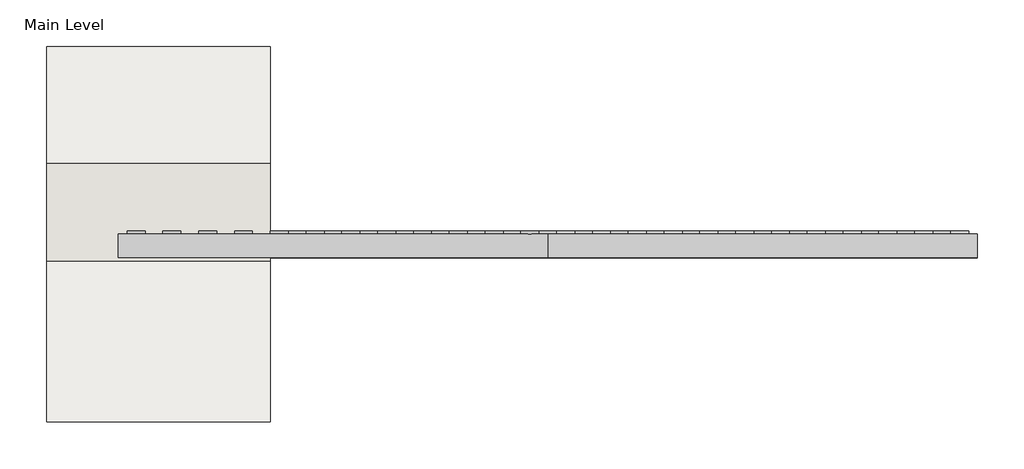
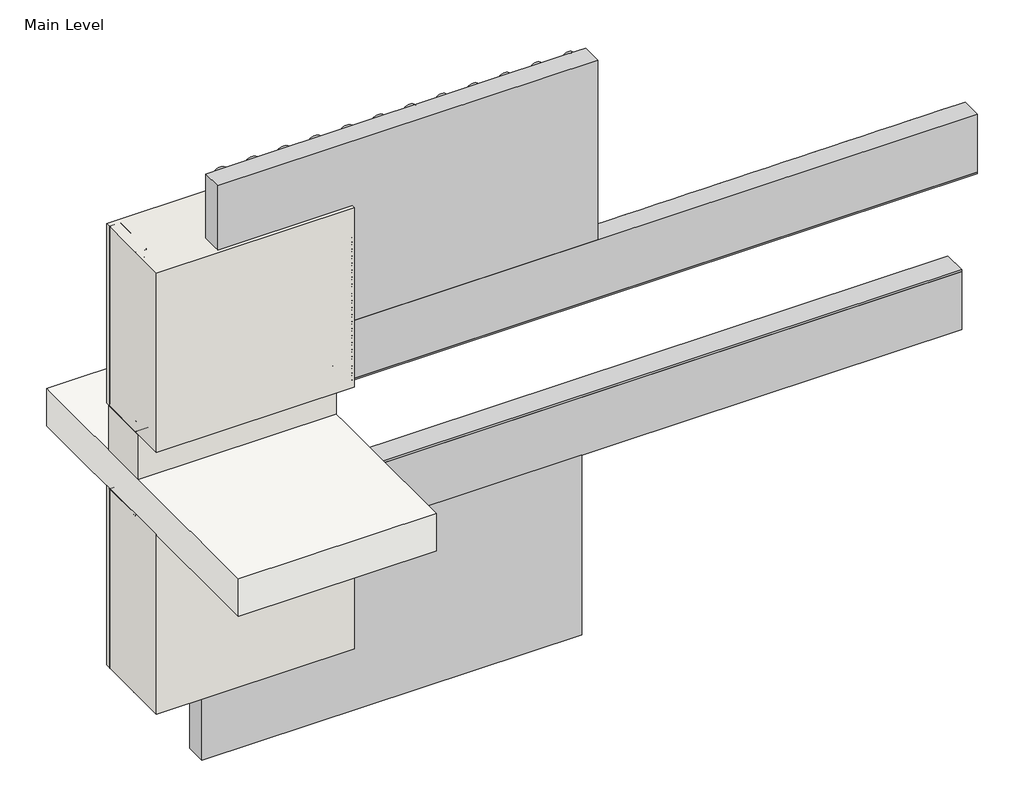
# One storey, incomplete: 32 proxies, 3 walls, 1 slab.
"""IFC4 building model written with IfcOpenShell, lengths in millimetres."""

from ifc_helpers import new_model, si_unit, frame, origin, origin_with_axes, place, context, project, spatial, polyline, outline, extrude, transform, mapped, element, save
from components import generic_models_31547c53, generic_models_0bbfdc8f, generic_models_1e1ad44f, generic_models_7dd17a53, generic_models_441de798, generic_models_9d0e7a2a, generic_models_a6b5edb7, generic_models_b4f71f2a, generic_models_03ec6e0e, proxy_4c3b85e5, proxy_50213ae0, proxy_cc65e3d2, masonry_sill1_masonry_sill_09de60a1, wood_blocking_45ac4bf3

model = new_model("IFC4")

# Units and contexts
model_context = context("Model", 3, world=origin())
ifc_project = project(units=[si_unit("LENGTHUNIT", "METRE", prefix="MILLI")], contexts=[model_context])

# Site, building, storey
site = spatial("IfcSite", under=ifc_project)
building = spatial("IfcBuilding", under=site)
storey = spatial("IfcBuildingStorey", under=building, Name="Main Level", Elevation=0.0)

# Proxies
placement = place(None, origin())
generic_models_shape = generic_models_31547c53(model_context)
element("IfcBuildingElementProxy", 1, Name="Durabond Generic Model Sealant Vent : Durabond Generic Model Sealant Vent", ObjectType="Durabond Generic Model Sealant Vent : Durabond Generic Model Sealant Vent", at=placement, inside=storey, context=model_context, shape_type="MappedRepresentation", body=[
    mapped(generic_models_shape, transform((26865.4101773, 546.8432813, 8.5594788), x_axis=(1.0, 0.0, 0.0), y_axis=(0.0, 0.08715574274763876, -0.9961946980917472), z_axis=(0.0, 0.9961946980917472, 0.08715574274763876))),
])
generic_models_2_shape = generic_models_0bbfdc8f(model_context)
generic_models_3_shape = generic_models_1e1ad44f(model_context)
generic_models_4_shape = generic_models_7dd17a53(model_context)
generic_models_5_shape = generic_models_441de798(model_context)
element("IfcBuildingElementProxy", 2, Name="CRAi Generic Model Mesh Piece Face Based : CRAi Generic Model Mesh Piece Face Based", ObjectType="CRAi Generic Model Mesh Piece Face Based : CRAi Generic Model Mesh Piece Face Based", at=placement, inside=storey, context=model_context, shape_type="MappedRepresentation", body=[
    mapped(generic_models_2_shape, transform((26933.6726773, 541.9066297, 261.6963215), x_axis=(-1.0, 0.0, 0.0), y_axis=(0.0, 0.0, -1.0), z_axis=(0.0, -1.0, 0.0))),
    mapped(generic_models_3_shape, transform((26933.6726773, 541.9066297, 261.6963215), x_axis=(-1.0, 0.0, 0.0), y_axis=(0.0, 0.0, -1.0), z_axis=(0.0, -1.0, 0.0))),
    mapped(generic_models_4_shape, transform((26933.6726773, 541.9066297, 261.6963215), x_axis=(-1.0, 0.0, 0.0), y_axis=(0.0, 0.0, -1.0), z_axis=(0.0, -1.0, 0.0))),
    mapped(generic_models_5_shape, transform((26933.6726773, 541.9066297, 261.6963215), x_axis=(-1.0, 0.0, 0.0), y_axis=(0.0, 0.0, -1.0), z_axis=(0.0, -1.0, 0.0))),
])
generic_models_6_shape = generic_models_9d0e7a2a(model_context)
element("IfcBuildingElementProxy", 3, Name="CRAi Generic Model Metal Stud Array : CRAi Generic Model Metal Stud Array", ObjectType="CRAi Generic Model Metal Stud Array : CRAi Generic Model Metal Stud Array", at=placement, inside=storey, context=model_context, shape_type="MappedRepresentation", body=[
    mapped(generic_models_6_shape, transform((26666.9726773, 726.0566297, 6.35), x_axis=(-1.0, 0.0, 0.0), y_axis=(0.0, -1.0, 0.0), z_axis=(0.0, 0.0, 1.0))),
])
element("IfcBuildingElementProxy", 4, Name="CRAi Generic Model Metal Stud Array : CRAi Generic Model Metal Stud Array", ObjectType="CRAi Generic Model Metal Stud Array : CRAi Generic Model Metal Stud Array", at=placement, inside=storey, context=model_context, shape_type="MappedRepresentation", body=[
    mapped(generic_models_6_shape, transform((26666.9726773, 726.0566297, -889.0), x_axis=(-1.0, 0.0, 0.0), y_axis=(0.0, -1.0, 0.0), z_axis=(0.0, 0.0, 1.0))),
])
generic_models_7_shape = generic_models_a6b5edb7(model_context)
element("IfcBuildingElementProxy", 5, Name="Durabond Generic Model Insulation Adhesive Flat : Durabond Generic Model Insulation Adhesive Flat", ObjectType="Durabond Generic Model Insulation Adhesive Flat : Durabond Generic Model Insulation Adhesive Flat", at=placement, inside=storey, context=model_context, shape_type="MappedRepresentation", body=[
    mapped(generic_models_7_shape, transform((26717.7726773, 627.6316297, 88.9), x_axis=(1.0, 0.0, 0.0), y_axis=(0.0, 1.0, 0.0), z_axis=(0.0, 0.0, 1.0))),
])
element("IfcBuildingElementProxy", 6, Name="Durabond Generic Model Insulation Adhesive Flat : Durabond Generic Model Insulation Adhesive Flat", ObjectType="Durabond Generic Model Insulation Adhesive Flat : Durabond Generic Model Insulation Adhesive Flat", at=placement, inside=storey, context=model_context, shape_type="MappedRepresentation", body=[
    mapped(generic_models_7_shape, transform((26819.3726773, 627.6316297, 88.9), x_axis=(1.0, 0.0, 0.0), y_axis=(0.0, 1.0, 0.0), z_axis=(0.0, 0.0, 1.0))),
])
element("IfcBuildingElementProxy", 7, Name="Durabond Generic Model Insulation Adhesive Flat : Durabond Generic Model Insulation Adhesive Flat", ObjectType="Durabond Generic Model Insulation Adhesive Flat : Durabond Generic Model Insulation Adhesive Flat", at=placement, inside=storey, context=model_context, shape_type="MappedRepresentation", body=[
    mapped(generic_models_7_shape, transform((26920.9726773, 627.6316297, 88.9), x_axis=(1.0, 0.0, 0.0), y_axis=(0.0, 1.0, 0.0), z_axis=(0.0, 0.0, 1.0))),
])
element("IfcBuildingElementProxy", 8, Name="Durabond Generic Model Insulation Adhesive Flat : Durabond Generic Model Insulation Adhesive Flat", ObjectType="Durabond Generic Model Insulation Adhesive Flat : Durabond Generic Model Insulation Adhesive Flat", at=placement, inside=storey, context=model_context, shape_type="MappedRepresentation", body=[
    mapped(generic_models_7_shape, transform((27022.5726773, 627.6316297, 88.9), x_axis=(1.0, 0.0, 0.0), y_axis=(0.0, 1.0, 0.0), z_axis=(0.0, 0.0, 1.0))),
])
generic_models_8_shape = generic_models_b4f71f2a(model_context)
element("IfcBuildingElementProxy", 9, Name="Durabond Generic Model Insulation Adhesive Flat : Durabond Generic Model Insulation Adhesive Flat", ObjectType="Durabond Generic Model Insulation Adhesive Flat : Durabond Generic Model Insulation Adhesive Flat", at=placement, inside=storey, context=model_context, shape_type="MappedRepresentation", body=[
    mapped(generic_models_8_shape, transform((26666.9726773, 627.6316297, -812.8), x_axis=(1.0, 0.0, 0.0), y_axis=(0.0, 1.0, 0.0), z_axis=(0.0, 0.0, 1.0))),
])
element("IfcBuildingElementProxy", 10, Name="Durabond Generic Model Insulation Adhesive Flat : Durabond Generic Model Insulation Adhesive Flat", ObjectType="Durabond Generic Model Insulation Adhesive Flat : Durabond Generic Model Insulation Adhesive Flat", at=placement, inside=storey, context=model_context, shape_type="MappedRepresentation", body=[
    mapped(generic_models_8_shape, transform((26768.5726773, 627.6316297, -812.8), x_axis=(1.0, 0.0, 0.0), y_axis=(0.0, 1.0, 0.0), z_axis=(0.0, 0.0, 1.0))),
])
element("IfcBuildingElementProxy", 11, Name="Durabond Generic Model Insulation Adhesive Flat : Durabond Generic Model Insulation Adhesive Flat", ObjectType="Durabond Generic Model Insulation Adhesive Flat : Durabond Generic Model Insulation Adhesive Flat", at=placement, inside=storey, context=model_context, shape_type="MappedRepresentation", body=[
    mapped(generic_models_8_shape, transform((26870.1726773, 627.6316297, -812.8), x_axis=(1.0, 0.0, 0.0), y_axis=(0.0, 1.0, 0.0), z_axis=(0.0, 0.0, 1.0))),
])
element("IfcBuildingElementProxy", 12, Name="Durabond Generic Model Insulation Adhesive Flat : Durabond Generic Model Insulation Adhesive Flat", ObjectType="Durabond Generic Model Insulation Adhesive Flat : Durabond Generic Model Insulation Adhesive Flat", at=placement, inside=storey, context=model_context, shape_type="MappedRepresentation", body=[
    mapped(generic_models_8_shape, transform((26971.7726773, 627.6316297, -812.8), x_axis=(1.0, 0.0, 0.0), y_axis=(0.0, 1.0, 0.0), z_axis=(0.0, 0.0, 1.0))),
])
element("IfcBuildingElementProxy", 13, Name="Durabond Generic Model Insulation Adhesive Flat : Durabond Generic Model Insulation Adhesive Flat", ObjectType="Durabond Generic Model Insulation Adhesive Flat : Durabond Generic Model Insulation Adhesive Flat", at=placement, inside=storey, context=model_context, shape_type="MappedRepresentation", body=[
    mapped(generic_models_8_shape, transform((27073.3726773, 627.6316297, -812.8), x_axis=(1.0, 0.0, 0.0), y_axis=(0.0, 1.0, 0.0), z_axis=(0.0, 0.0, 1.0))),
])
generic_models_9_shape = generic_models_03ec6e0e(model_context)
element("IfcBuildingElementProxy", 14, Name="CRAi Generic Model Drywall Screw : CRAi Generic Model Drywall Screw", ObjectType="CRAi Generic Model Drywall Screw : CRAi Generic Model Drywall Screw", at=placement, inside=storey, context=model_context, shape_type="MappedRepresentation", body=[
    mapped(generic_models_9_shape, transform((26482.8226773, 633.9816297, 25.4), x_axis=(1.0, 0.0, 0.0), y_axis=(0.0, 0.0, 1.0), z_axis=(0.0, -1.0, 0.0))),
])
element("IfcBuildingElementProxy", 15, Name="CRAi Generic Model Drywall Screw : CRAi Generic Model Drywall Screw", ObjectType="CRAi Generic Model Drywall Screw : CRAi Generic Model Drywall Screw", at=placement, inside=storey, context=model_context, shape_type="MappedRepresentation", body=[
    mapped(generic_models_9_shape, transform((26482.8226773, 633.9816297, 215.9), x_axis=(1.0, 0.0, 0.0), y_axis=(0.0, 0.0, 1.0), z_axis=(0.0, -1.0, 0.0))),
])
element("IfcBuildingElementProxy", 16, Name="CRAi Generic Model Drywall Screw : CRAi Generic Model Drywall Screw", ObjectType="CRAi Generic Model Drywall Screw : CRAi Generic Model Drywall Screw", at=placement, inside=storey, context=model_context, shape_type="MappedRepresentation", body=[
    mapped(generic_models_9_shape, transform((26482.8226773, 633.9816297, 406.4), x_axis=(1.0, 0.0, 0.0), y_axis=(0.0, 0.0, 1.0), z_axis=(0.0, -1.0, 0.0))),
])
element("IfcBuildingElementProxy", 17, Name="CRAi Generic Model Drywall Screw : CRAi Generic Model Drywall Screw", ObjectType="CRAi Generic Model Drywall Screw : CRAi Generic Model Drywall Screw", at=placement, inside=storey, context=model_context, shape_type="MappedRepresentation", body=[
    mapped(generic_models_9_shape, transform((26482.8226773, 633.9816297, 596.9), x_axis=(1.0, 0.0, 0.0), y_axis=(0.0, 0.0, 1.0), z_axis=(0.0, -1.0, 0.0))),
])
element("IfcBuildingElementProxy", 18, Name="CRAi Generic Model Drywall Screw : CRAi Generic Model Drywall Screw", ObjectType="CRAi Generic Model Drywall Screw : CRAi Generic Model Drywall Screw", at=placement, inside=storey, context=model_context, shape_type="MappedRepresentation", body=[
    mapped(generic_models_9_shape, transform((26851.1226773, 633.9816297, 25.4), x_axis=(1.0, 0.0, 0.0), y_axis=(0.0, 0.0, 1.0), z_axis=(0.0, -1.0, 0.0))),
])
element("IfcBuildingElementProxy", 19, Name="CRAi Generic Model Drywall Screw : CRAi Generic Model Drywall Screw", ObjectType="CRAi Generic Model Drywall Screw : CRAi Generic Model Drywall Screw", at=placement, inside=storey, context=model_context, shape_type="MappedRepresentation", body=[
    mapped(generic_models_9_shape, transform((26851.1226773, 633.9816297, 215.9), x_axis=(1.0, 0.0, 0.0), y_axis=(0.0, 0.0, 1.0), z_axis=(0.0, -1.0, 0.0))),
])
element("IfcBuildingElementProxy", 20, Name="CRAi Generic Model Drywall Screw : CRAi Generic Model Drywall Screw", ObjectType="CRAi Generic Model Drywall Screw : CRAi Generic Model Drywall Screw", at=placement, inside=storey, context=model_context, shape_type="MappedRepresentation", body=[
    mapped(generic_models_9_shape, transform((26851.1226773, 633.9816297, 406.4), x_axis=(1.0, 0.0, 0.0), y_axis=(0.0, 0.0, 1.0), z_axis=(0.0, -1.0, 0.0))),
])
element("IfcBuildingElementProxy", 21, Name="CRAi Generic Model Drywall Screw : CRAi Generic Model Drywall Screw", ObjectType="CRAi Generic Model Drywall Screw : CRAi Generic Model Drywall Screw", at=placement, inside=storey, context=model_context, shape_type="MappedRepresentation", body=[
    mapped(generic_models_9_shape, transform((26851.1226773, 633.9816297, 596.9), x_axis=(1.0, 0.0, 0.0), y_axis=(0.0, 0.0, 1.0), z_axis=(0.0, -1.0, 0.0))),
])
element("IfcBuildingElementProxy", 22, Name="CRAi Generic Model Drywall Screw : CRAi Generic Model Drywall Screw", ObjectType="CRAi Generic Model Drywall Screw : CRAi Generic Model Drywall Screw", at=placement, inside=storey, context=model_context, shape_type="MappedRepresentation", body=[
    mapped(generic_models_9_shape, transform((26482.8226773, 633.9816297, -869.95), x_axis=(1.0, 0.0, 0.0), y_axis=(0.0, 0.0, 1.0), z_axis=(0.0, -1.0, 0.0))),
])
element("IfcBuildingElementProxy", 23, Name="CRAi Generic Model Drywall Screw : CRAi Generic Model Drywall Screw", ObjectType="CRAi Generic Model Drywall Screw : CRAi Generic Model Drywall Screw", at=placement, inside=storey, context=model_context, shape_type="MappedRepresentation", body=[
    mapped(generic_models_9_shape, transform((26482.8226773, 633.9816297, -679.45), x_axis=(1.0, 0.0, 0.0), y_axis=(0.0, 0.0, 1.0), z_axis=(0.0, -1.0, 0.0))),
])
element("IfcBuildingElementProxy", 24, Name="CRAi Generic Model Drywall Screw : CRAi Generic Model Drywall Screw", ObjectType="CRAi Generic Model Drywall Screw : CRAi Generic Model Drywall Screw", at=placement, inside=storey, context=model_context, shape_type="MappedRepresentation", body=[
    mapped(generic_models_9_shape, transform((26482.8226773, 633.9816297, -488.95), x_axis=(1.0, 0.0, 0.0), y_axis=(0.0, 0.0, 1.0), z_axis=(0.0, -1.0, 0.0))),
])
element("IfcBuildingElementProxy", 25, Name="CRAi Generic Model Drywall Screw : CRAi Generic Model Drywall Screw", ObjectType="CRAi Generic Model Drywall Screw : CRAi Generic Model Drywall Screw", at=placement, inside=storey, context=model_context, shape_type="MappedRepresentation", body=[
    mapped(generic_models_9_shape, transform((26482.8226773, 633.9816297, -298.45), x_axis=(1.0, 0.0, 0.0), y_axis=(0.0, 0.0, 1.0), z_axis=(0.0, -1.0, 0.0))),
])
proxy_shape = proxy_4c3b85e5(model_context)
element("IfcBuildingElementProxy", 26, Name="Durabond Generic Model Quantum Select 5-0 Boundary Board : 3\"", ObjectType="Durabond Generic Model Quantum Select 5-0 Boundary Board : 3\"", at=placement, inside=storey, context=model_context, shape_type="MappedRepresentation", body=[
    mapped(proxy_shape, transform((27835.3726773, 624.4566297, -393.7), x_axis=(-1.0, 0.0, 0.0), y_axis=(0.0, 0.0, -1.0), z_axis=(0.0, -1.0, 0.0))),
])
proxy_2_shape = proxy_50213ae0(model_context)
element("IfcBuildingElementProxy", 27, Name="Durabond Generic Model Quantum Select 5-0 Insulation Board : 3\"", ObjectType="Durabond Generic Model Quantum Select 5-0 Insulation Board : 3\"", at=placement, inside=storey, context=model_context, shape_type="MappedRepresentation", body=[
    mapped(proxy_2_shape, transform((27276.5726773, 624.4566297, 523.392643), x_axis=(1.0, 0.0, 0.0), y_axis=(0.0, 0.0, 1.0), z_axis=(0.0, -1.0, 0.0))),
])
element("IfcBuildingElementProxy", 28, Name="Durabond Generic Model Quantum Select 5-0 Insulation Board : 3\"", ObjectType="Durabond Generic Model Quantum Select 5-0 Insulation Board : 3\"", at=placement, inside=storey, context=model_context, shape_type="MappedRepresentation", body=[
    mapped(proxy_2_shape, transform((27225.7726773, 624.4566297, -800.1), x_axis=(1.0, 0.0, 0.0), y_axis=(0.0, 0.0, 1.0), z_axis=(0.0, -1.0, 0.0))),
])
proxy_3_shape = proxy_cc65e3d2(model_context)
element("IfcBuildingElementProxy", 29, Name="Durabond Generic Model Quantum Select 5-0 Vent Board : 3\"", ObjectType="Durabond Generic Model Quantum Select 5-0 Vent Board : 3\"", at=placement, inside=storey, context=model_context, shape_type="MappedRepresentation", body=[
    mapped(proxy_3_shape, transform((27886.1726773, 624.4566297, 116.992643), x_axis=(1.0, 0.0, 0.0), y_axis=(0.0, 0.0, 1.0), z_axis=(0.0, -1.0, 0.0))),
])
masonry_sill1_masonry_sill_shape = masonry_sill1_masonry_sill_09de60a1(model_context)
element("IfcBuildingElementProxy", 30, Name="Masonry Sill1 : Masonry Sill", ObjectType="Masonry Sill1 : Masonry Sill", at=placement, inside=storey, context=model_context, shape_type="MappedRepresentation", body=[
    mapped(masonry_sill1_masonry_sill_shape, transform((0.0, 0.0, 0.0), x_axis=(1.0, 0.0, 0.0), y_axis=(0.0, 1.0, 0.0), z_axis=(0.0, 0.0, 1.0))),
])
wood_blocking_shape = wood_blocking_45ac4bf3(model_context)
element("IfcBuildingElementProxy", 31, Name="CRAi Generic Model Line Based Metal Framing Track : Wood Blocking", ObjectType="CRAi Generic Model Line Based Metal Framing Track : Wood Blocking", at=placement, inside=storey, context=model_context, shape_type="MappedRepresentation", body=[
    mapped(wood_blocking_shape, transform((26463.7726773, 649.8566297, 0.0), x_axis=(1.0, 0.0, 0.0), y_axis=(0.0, 1.0, 0.0), z_axis=(0.0, 0.0, 1.0))),
])
element("IfcBuildingElementProxy", 32, Name="CRAi Generic Model Line Based Metal Framing Track : Wood Blocking", ObjectType="CRAi Generic Model Line Based Metal Framing Track : Wood Blocking", at=placement, inside=storey, context=model_context, shape_type="MappedRepresentation", body=[
    mapped(wood_blocking_shape, transform((26463.7726773, 802.2566297, -279.4), x_axis=(1.0, 0.0, 0.0), y_axis=(0.0, -1.0, 0.0), z_axis=(0.0, 0.0, -1.0))),
])

# Slab
element("IfcSlab", 33, ObjectType="CRAi Concrete Floor - 5\"", at=placement, inside=storey, context=model_context, shape_type="SweptSolid", body=[
    extrude(outline(polyline([(27098.7726773, 81.5316297), (26463.7726773, 81.5316297), (26463.7726773, 1148.3316297), (27098.7726773, 1148.3316297), (27098.7726773, 81.5316297)])), frame((0.0, 0.0, -279.4), z_axis=(0.0, 0.0, 1.0), x_axis=(1.0, 0.0, 0.0)), (0.0, 0.0, 1.0), 127.0),
])

# Walls
element("IfcWall", 34, ObjectType="189mm (7.5”) EIFS Field Applied on Mtl. Stud Layer - 50mm Grooved Insulation Board Metal Stud Wall", at=placement, inside=storey, context=model_context, shape_type="SweptSolid", body=[
    extrude(outline(polyline([(27098.7726773, 538.7316297), (26463.7726773, 538.7316297), (26463.7726773, 814.9566297), (27098.7726773, 814.9566297), (27098.7726773, 538.7316297)])), origin_with_axes(), (0.0, 0.0, 1.0), 609.6),
])
element("IfcWall", 35, ObjectType="Durabond 6\" Concrete Wall", at=placement, inside=storey, context=model_context, shape_type="SweptSolid", body=[
    extrude(outline(polyline([(27098.7726773, 637.1566297), (26463.7726773, 637.1566297), (26463.7726773, 802.2566297), (27098.7726773, 802.2566297), (27098.7726773, 637.1566297)])), frame((0.0, 0.0, -152.4), z_axis=(0.0, 0.0, 1.0), x_axis=(1.0, 0.0, 0.0)), (0.0, 0.0, 1.0), 152.4),
])
element("IfcWall", 36, ObjectType="189mm (7.5”) EIFS Field Applied on Mtl. Stud Layer - 50mm Grooved Insulation Board Metal Stud Wall", at=placement, inside=storey, context=model_context, shape_type="SweptSolid", body=[
    extrude(outline(polyline([(27098.7726773, 538.7316297), (26463.7726773, 538.7316297), (26463.7726773, 814.9566297), (27098.7726773, 814.9566297), (27098.7726773, 538.7316297)])), frame((0.0, 0.0, -889.0), z_axis=(0.0, 0.0, 1.0), x_axis=(1.0, 0.0, 0.0)), (0.0, 0.0, 1.0), 609.6),
])

save(model, "model.ifc")
